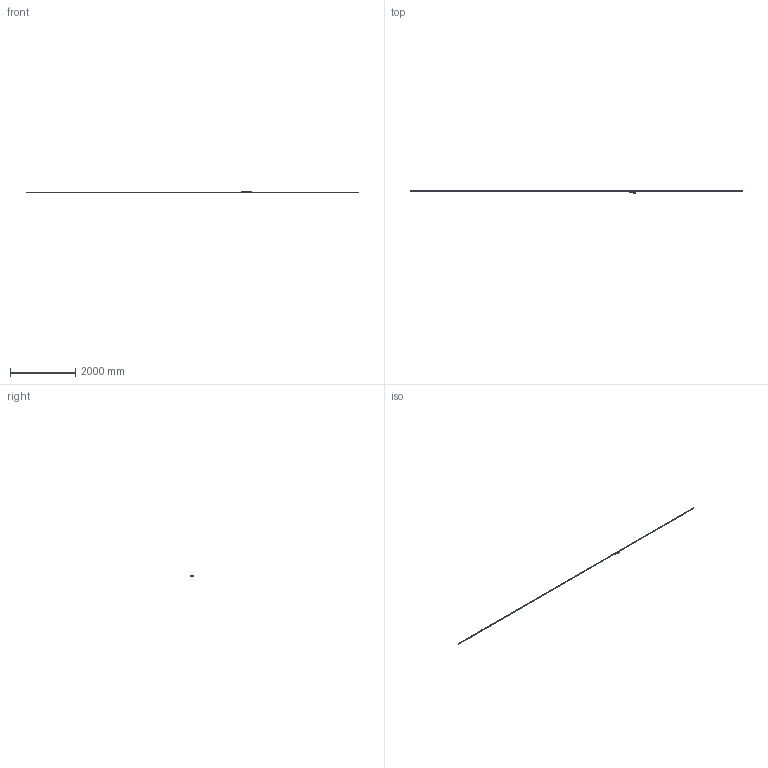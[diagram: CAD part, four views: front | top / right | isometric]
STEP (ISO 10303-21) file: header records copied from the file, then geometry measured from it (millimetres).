
FILE_DESCRIPTION(('Creo Elements/Direct Modeling STEP Export'),'2;1');
FILE_NAME('ST1300-10000D.stp','2018-03-01T16:05:52',(''),(''),'Creo Elements/Direct Modeling STEP processor for AP214 (Solid Model)','Creo Elements/Direct Modeling 18.1B 29-Sep-2012 (C) Parametric Technology GmbH','');
FILE_SCHEMA(('AUTOMOTIVE_DESIGN { 1 0 10303 214 1 1 1 1 }'));
Length unit declared in the file: millimetre
Products named in the file (4): Detector_Head; Scale_10000; Connector; ST1300-10000D
Assembly tree (3 placements, depth 2):
  ST1300-10000D
    Connector
    Scale_10000
    Detector_Head
Bounding box: 10173 x 88.3 x 30.1 mm (x, y, z)
Volume: 861212.6 mm3; surface area: 546992.7 mm2
Topology: 2 solids, 10 shells, 6316 faces, 16906 edges, 10881 vertices
Faces by surface type: plane 2818, cylinder 2262, extrusion 1012, cone 135, torus 62, bspline 23, revolution 4
Entity records: 204616 total; most frequent: CARTESIAN_POINT 52030, ORIENTED_EDGE 33788, DIRECTION 27292, EDGE_CURVE 16890, VERTEX_POINT 10881, VECTOR 10088, LINE 9114, AXIS2_PLACEMENT_3D 8599
